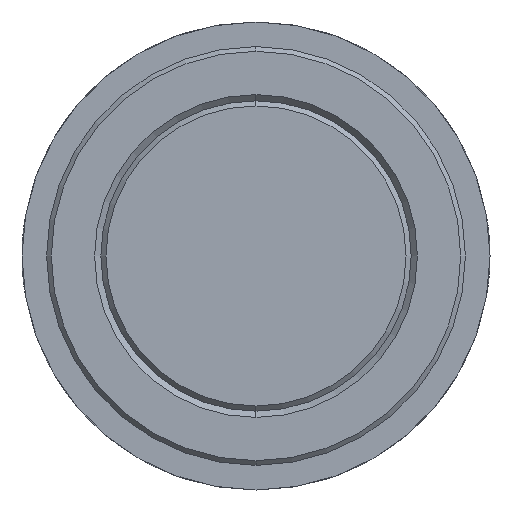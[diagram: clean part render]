
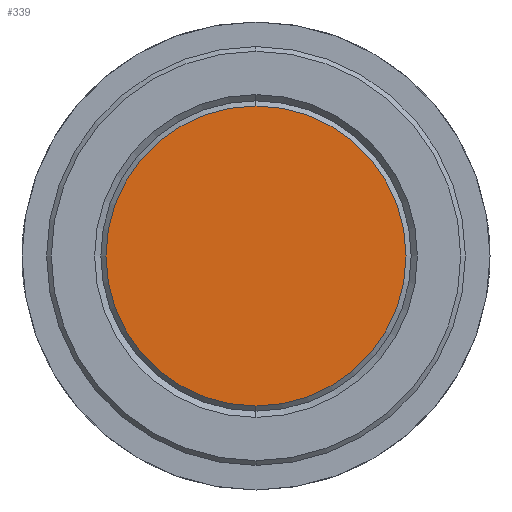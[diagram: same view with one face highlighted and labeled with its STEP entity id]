
A CAD part, left-side view. The second image highlights one B-rep face of the part: STEP entity #339.
In plain terms, the highlighted planar face has unit normal (-1, 0, 0).
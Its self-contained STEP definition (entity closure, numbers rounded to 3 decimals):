
#277=EDGE_CURVE('',#535,#457,#677,.T.);
#339=ADVANCED_FACE('',(#744),#745,.T.);
#421=EDGE_CURVE('',#457,#535,#836,.T.);
#457=VERTEX_POINT('',#876);
#535=VERTEX_POINT('',#964);
#677=CIRCLE('',#1134,30.45);
#744=FACE_OUTER_BOUND('',#1252,.T.);
#745=PLANE('',#1253);
#836=CIRCLE('',#1379,30.45);
#876=CARTESIAN_POINT('',(0.0,0.0,-30.45));
#964=CARTESIAN_POINT('',(0.0,0.,30.45));
#1134=AXIS2_PLACEMENT_3D('',#1776,#1777,#1778);
#1252=EDGE_LOOP('',(#1839,#1840));
#1253=AXIS2_PLACEMENT_3D('',#1841,#1842,#1843);
#1379=AXIS2_PLACEMENT_3D('',#1950,#1951,#1952);
#1776=CARTESIAN_POINT('',(0.0,0.0,0.0));
#1777=DIRECTION('',(1.0,0.0,0.0));
#1778=DIRECTION('',(0.0,0.0,-1.0));
#1839=ORIENTED_EDGE('',*,*,#421,.F.);
#1840=ORIENTED_EDGE('',*,*,#277,.F.);
#1841=CARTESIAN_POINT('',(0.0,0.0,-15.225));
#1842=DIRECTION('',(-1.0,0.0,0.0));
#1843=DIRECTION('',(0.0,0.0,1.0));
#1950=CARTESIAN_POINT('',(0.0,0.0,0.0));
#1951=DIRECTION('',(1.0,0.0,0.0));
#1952=DIRECTION('',(0.0,0.0,-1.0));
